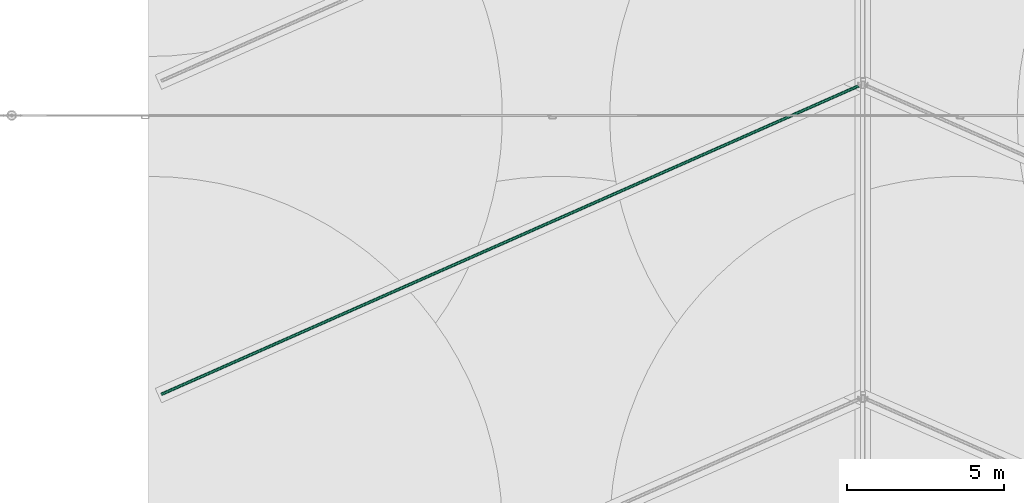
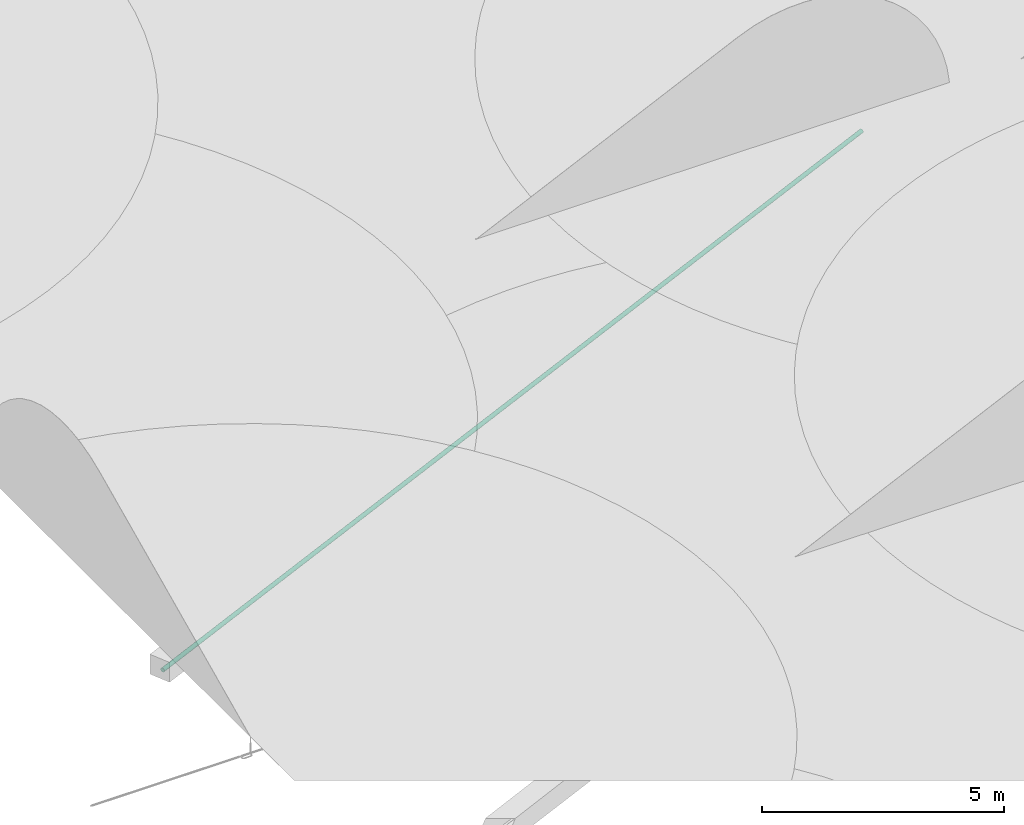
# One storey, part 18 of 166: 1 flow segment.
"""IFC2X3 building model written with IfcOpenShell, lengths in metres."""

from ifc_helpers import new_model, entity, si_unit, converted_unit, direction, frame, origin, origin_2d_with_axis, place, context, subcontext, project, spatial, circle, extrude, type_object, element, save


model = new_model("IFC2X3")

# Units and contexts
model_context = context("Model", 3, precision=1e-05, world=origin(), true_north=direction((6.123233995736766e-17, 1.0)))
body_context = subcontext(model_context, "Body", "Model", "MODEL_VIEW")
ifc_project = project(units=[si_unit("LENGTHUNIT", "METRE"), converted_unit("PLANEANGLEUNIT", "DEGREE", entity("IfcPlaneAngleMeasure", 0.017453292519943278), si_unit("PLANEANGLEUNIT", "RADIAN"), dimensions=[0, 0, 0, 0, 0, 0, 0]), si_unit("AREAUNIT", "SQUARE_METRE")], contexts=[model_context])

# Site, building, storey
site_placement = place(None, origin())
site = spatial("IfcSite", under=ifc_project, at=site_placement, Name="Default", CompositionType="ELEMENT")
building_placement = place(site_placement, origin())
building = spatial("IfcBuilding", under=site, at=building_placement, Name="CASA DE ACOLHIDA PARA IDOSOS", CompositionType="ELEMENT")
storey_placement = place(building_placement, frame((0.0, 0.0, -1.7499999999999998)))
storey = spatial("IfcBuildingStorey", under=building, at=storey_placement, Name="IMPLANTAÇÃO DRENAGEM", CompositionType="ELEMENT", Elevation=-1.7499999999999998)

# Flow segment
pipe_segment_type = type_object("IfcPipeSegmentType", Name="Tipos de tubos:PLUV_Tubo PEAD Corrugado", PredefinedType="NOTDEFINED")
flow_segment_placement = place(storey_placement, origin())
element("IfcFlowSegment", 1, at=flow_segment_placement, inside=storey, type_object=pipe_segment_type, Name="Tipos de tubos:PLUV_Tubo PEAD Corrugado", ObjectType="Tipos de tubos:PLUV_Tubo PEAD Corrugado", context=body_context, shape_type="SweptSolid", body=[
    extrude(circle(Radius=0.05, at=origin_2d_with_axis()), frame((-21.981366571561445, 23.854942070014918, -1.0948), z_axis=(-0.9144899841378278, -0.404484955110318, 0.009999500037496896), x_axis=(0.40450517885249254, -0.9145357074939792, 0.0)), (0.0, 0.0, 1.0), 24.480228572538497),
])

save(model, "model.ifc")
